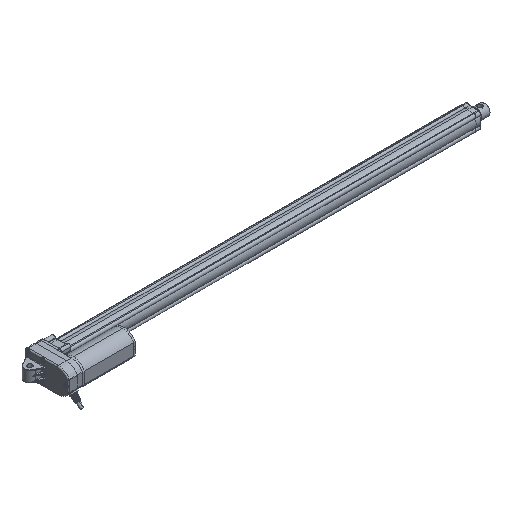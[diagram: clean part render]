
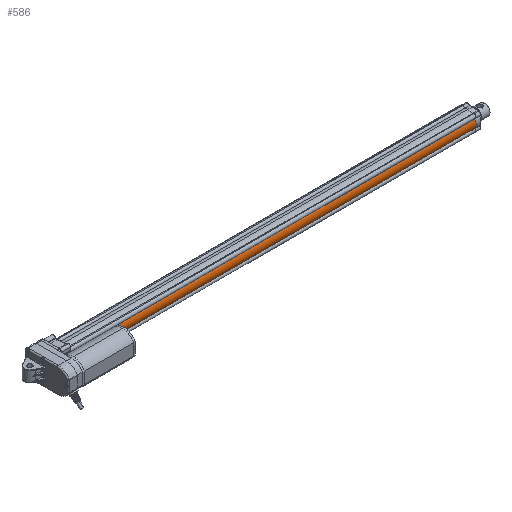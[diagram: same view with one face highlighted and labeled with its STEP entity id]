
A CAD part, isometric view. The second image highlights one B-rep face of the part: STEP entity #586.
In plain terms, the highlighted cylindrical face has radius 15 mm (diameter 30 mm), a partial arc.
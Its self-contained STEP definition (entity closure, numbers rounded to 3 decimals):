
#586=ADVANCED_FACE('',(#1861),#1862,.T.);
#1861=FACE_OUTER_BOUND('',#5513,.T.);
#1862=CYLINDRICAL_SURFACE('',#5514,15.0);
#5513=EDGE_LOOP('',(#11141,#11142,#11143,#11144));
#5514=AXIS2_PLACEMENT_3D('',#11145,#11146,#11147);
#11141=ORIENTED_EDGE('',*,*,#14265,.T.);
#11142=ORIENTED_EDGE('',*,*,#13938,.F.);
#11143=ORIENTED_EDGE('',*,*,#14268,.T.);
#11144=ORIENTED_EDGE('',*,*,#14271,.F.);
#11145=CARTESIAN_POINT('',(390.75,0.0,0.0));
#11146=DIRECTION('',(1.0,0.0,0.0));
#11147=DIRECTION('',(0.0,0.0,-1.0));
#13938=EDGE_CURVE('',#16599,#16589,#16601,.T.);
#14265=EDGE_CURVE('',#17126,#16589,#17127,.T.);
#14268=EDGE_CURVE('',#16599,#17129,#17131,.T.);
#14271=EDGE_CURVE('',#17126,#17129,#17135,.T.);
#16589=VERTEX_POINT('',#23947);
#16599=VERTEX_POINT('',#23957);
#16601=CIRCLE('',#23959,15.0);
#17126=VERTEX_POINT('',#25316);
#17127=LINE('',#25317,#25318);
#17129=VERTEX_POINT('',#25320);
#17131=LINE('',#25322,#25323);
#17135=CIRCLE('',#25327,15.0);
#23947=CARTESIAN_POINT('',(751.5,-12.94,-7.587));
#23957=CARTESIAN_POINT('',(751.5,-12.94,7.587));
#23959=AXIS2_PLACEMENT_3D('',#29525,#29526,#29527);
#25316=CARTESIAN_POINT('',(30.0,-12.94,-7.587));
#25317=CARTESIAN_POINT('',(390.75,-12.94,-7.587));
#25318=VECTOR('',#29909,1.0);
#25320=CARTESIAN_POINT('',(30.0,-12.94,7.587));
#25322=CARTESIAN_POINT('',(390.75,-12.94,7.587));
#25323=VECTOR('',#29916,1.0);
#25327=AXIS2_PLACEMENT_3D('',#29923,#29924,#29925);
#29525=CARTESIAN_POINT('',(751.5,0.0,0.0));
#29526=DIRECTION('',(1.0,0.0,0.0));
#29527=DIRECTION('',(0.0,0.0,-1.0));
#29909=DIRECTION('',(1.0,0.0,0.0));
#29916=DIRECTION('',(-1.0,-0.0,-0.0));
#29923=CARTESIAN_POINT('',(30.0,0.0,0.0));
#29924=DIRECTION('',(-1.0,-0.0,-0.0));
#29925=DIRECTION('',(0.0,0.0,-1.0));
